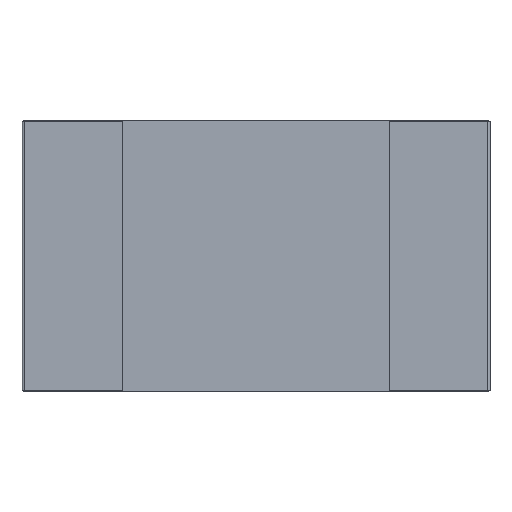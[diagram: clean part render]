
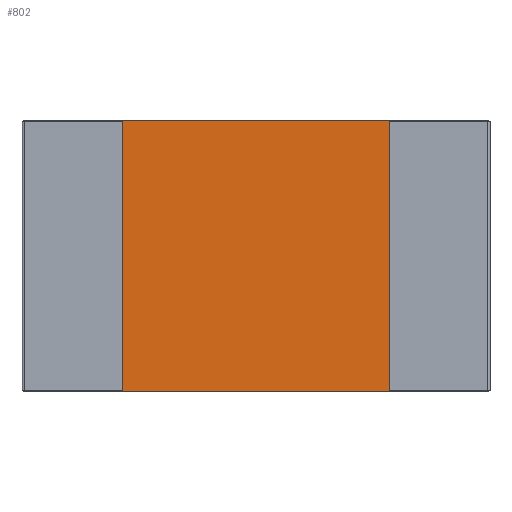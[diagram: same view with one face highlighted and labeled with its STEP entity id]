
A CAD part, top view. The second image highlights one B-rep face of the part: STEP entity #802.
In plain terms, the highlighted planar face has unit normal (0, 0, 1).
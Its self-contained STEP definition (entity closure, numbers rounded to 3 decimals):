
#16=DIRECTION('',(1.,0.,0.));
#17=VECTOR('',#16,11.48);
#18=CARTESIAN_POINT('',(-5.74,-3.35,0.52));
#19=LINE('',#18,#17);
#150=DIRECTION('',(1.,0.,0.));
#151=VECTOR('',#150,2.44);
#152=CARTESIAN_POINT('',(-5.74,-3.345,0.52));
#153=LINE('',#152,#151);
#154=DIRECTION('',(0.,1.,0.));
#155=VECTOR('',#154,6.69);
#156=CARTESIAN_POINT('',(-3.3,-3.345,0.52));
#157=LINE('',#156,#155);
#158=DIRECTION('',(1.,0.,0.));
#159=VECTOR('',#158,2.44);
#160=CARTESIAN_POINT('',(-5.74,3.345,0.52));
#161=LINE('',#160,#159);
#162=DIRECTION('',(0.,1.,0.));
#163=VECTOR('',#162,0.005);
#164=CARTESIAN_POINT('',(-5.74,3.345,0.52));
#165=LINE('',#164,#163);
#166=DIRECTION('',(1.,0.,0.));
#167=VECTOR('',#166,2.44);
#168=CARTESIAN_POINT('',(3.3,3.345,0.52));
#169=LINE('',#168,#167);
#170=DIRECTION('',(0.,1.,0.));
#171=VECTOR('',#170,6.69);
#172=CARTESIAN_POINT('',(3.3,-3.345,0.52));
#173=LINE('',#172,#171);
#174=DIRECTION('',(1.,0.,0.));
#175=VECTOR('',#174,2.44);
#176=CARTESIAN_POINT('',(3.3,-3.345,0.52));
#177=LINE('',#176,#175);
#178=DIRECTION('',(0.,1.,0.));
#179=VECTOR('',#178,0.005);
#180=CARTESIAN_POINT('',(-5.74,-3.35,0.52));
#181=LINE('',#180,#179);
#343=DIRECTION('',(0.,1.,0.));
#344=VECTOR('',#343,0.005);
#345=CARTESIAN_POINT('',(5.74,-3.35,0.52));
#346=LINE('',#345,#344);
#352=DIRECTION('',(0.,1.,0.));
#353=VECTOR('',#352,0.005);
#354=CARTESIAN_POINT('',(5.74,3.345,0.52));
#355=LINE('',#354,#353);
#413=DIRECTION('',(1.,0.,0.));
#414=VECTOR('',#413,11.48);
#415=CARTESIAN_POINT('',(-5.74,3.35,0.52));
#416=LINE('',#415,#414);
#462=CARTESIAN_POINT('',(-5.74,-3.35,0.52));
#463=CARTESIAN_POINT('',(5.74,-3.35,0.52));
#464=VERTEX_POINT('',#462);
#465=VERTEX_POINT('',#463);
#478=CARTESIAN_POINT('',(-5.74,3.35,0.52));
#479=CARTESIAN_POINT('',(5.74,3.35,0.52));
#480=VERTEX_POINT('',#478);
#481=VERTEX_POINT('',#479);
#498=CARTESIAN_POINT('',(-5.74,-3.345,0.52));
#499=CARTESIAN_POINT('',(-3.3,-3.345,0.52));
#500=VERTEX_POINT('',#498);
#501=VERTEX_POINT('',#499);
#502=CARTESIAN_POINT('',(-5.74,3.345,0.52));
#503=CARTESIAN_POINT('',(-3.3,3.345,0.52));
#504=VERTEX_POINT('',#502);
#505=VERTEX_POINT('',#503);
#570=CARTESIAN_POINT('',(3.3,-3.345,0.52));
#571=CARTESIAN_POINT('',(5.74,-3.345,0.52));
#572=VERTEX_POINT('',#570);
#573=VERTEX_POINT('',#571);
#574=CARTESIAN_POINT('',(3.3,3.345,0.52));
#575=CARTESIAN_POINT('',(5.74,3.345,0.52));
#576=VERTEX_POINT('',#574);
#577=VERTEX_POINT('',#575);
#776=CARTESIAN_POINT('',(-5.74,-3.35,0.52));
#777=DIRECTION('',(0.,0.,1.));
#778=DIRECTION('',(1.,0.,0.));
#779=AXIS2_PLACEMENT_3D('',#776,#777,#778);
#780=PLANE('',#779);
#781=ORIENTED_EDGE('',*,*,#681,.T.);
#783=ORIENTED_EDGE('',*,*,#782,.T.);
#785=ORIENTED_EDGE('',*,*,#784,.F.);
#786=ORIENTED_EDGE('',*,*,#771,.T.);
#788=ORIENTED_EDGE('',*,*,#787,.T.);
#790=ORIENTED_EDGE('',*,*,#789,.F.);
#792=ORIENTED_EDGE('',*,*,#791,.F.);
#794=ORIENTED_EDGE('',*,*,#793,.F.);
#795=ORIENTED_EDGE('',*,*,#701,.T.);
#797=ORIENTED_EDGE('',*,*,#796,.F.);
#798=ORIENTED_EDGE('',*,*,#613,.F.);
#799=ORIENTED_EDGE('',*,*,#754,.T.);
#800=EDGE_LOOP('',(#781,#783,#785,#786,#788,#790,#792,#794,#795,#797,#798,
#799));
#801=FACE_OUTER_BOUND('',#800,.F.);
#613=EDGE_CURVE('',#464,#465,#19,.T.);
#681=EDGE_CURVE('',#500,#501,#153,.T.);
#701=EDGE_CURVE('',#572,#573,#177,.T.);
#754=EDGE_CURVE('',#464,#500,#181,.T.);
#771=EDGE_CURVE('',#504,#480,#165,.T.);
#782=EDGE_CURVE('',#501,#505,#157,.T.);
#784=EDGE_CURVE('',#504,#505,#161,.T.);
#787=EDGE_CURVE('',#480,#481,#416,.T.);
#789=EDGE_CURVE('',#577,#481,#355,.T.);
#791=EDGE_CURVE('',#576,#577,#169,.T.);
#793=EDGE_CURVE('',#572,#576,#173,.T.);
#796=EDGE_CURVE('',#465,#573,#346,.T.);
#802=ADVANCED_FACE('',(#801),#780,.T.);
